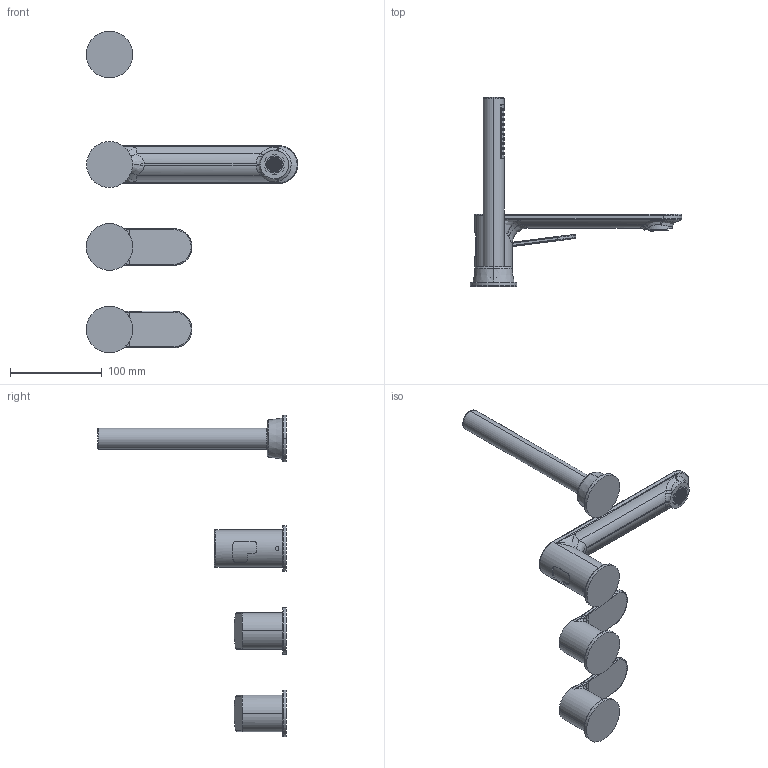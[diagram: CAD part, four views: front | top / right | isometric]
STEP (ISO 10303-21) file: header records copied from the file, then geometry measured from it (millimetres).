
FILE_DESCRIPTION (( 'STEP AP214' ), '1' );
FILE_NAME ('82139410 x architetti.STEP', '2025-01-15T10:22:52', ( '' ), ( '' ), 'SwSTEP 2.0', 'SolidWorks 2020', '' );
FILE_SCHEMA (( 'AUTOMOTIVE_DESIGN' ));
Length unit declared in the file: millimetre
Products named in the file (1): 82139410 x architetti
Bounding box: 231 x 205.77 x 351 mm (x, y, z)
Volume: 425798.9 mm3; surface area: 99357 mm2
Topology: 4 solids, 6 shells, 1481 faces, 3486 edges, 2271 vertices
Faces by surface type: plane 1126, cylinder 217, bspline 122, cone 8, torus 8
Entity records: 65910 total; most frequent: CARTESIAN_POINT 18880, ORIENTED_EDGE 6960, DIRECTION 6091, EDGE_CURVE 3480, VECTOR 2833, LINE 2833, VERTEX_POINT 2271, EDGE_LOOP 1745
